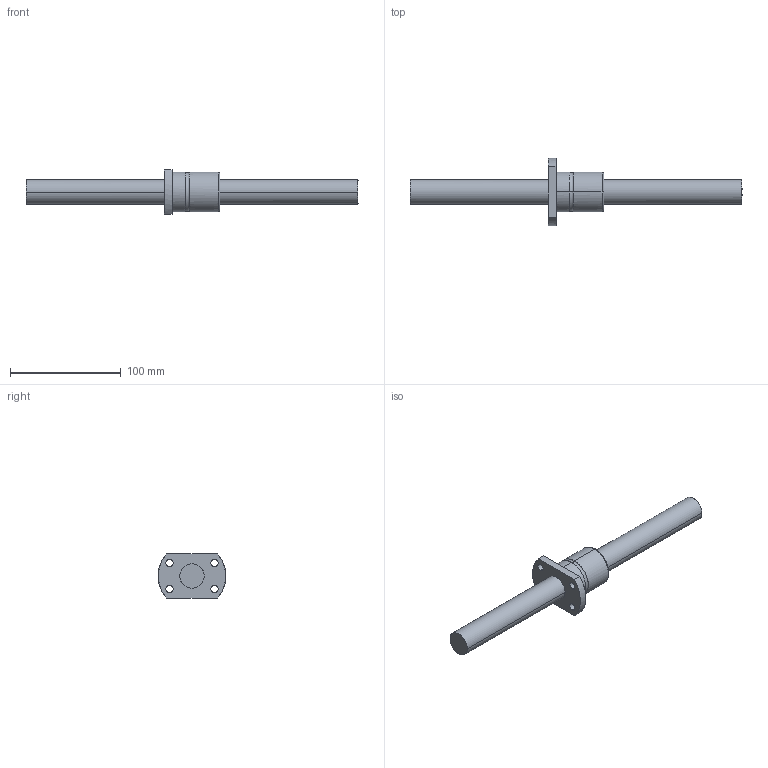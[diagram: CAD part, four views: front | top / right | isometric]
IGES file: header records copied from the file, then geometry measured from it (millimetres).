
Global section: file name: No Iges File Name specified; native system: AutoDesk Inventor R10; preprocessor: AutoDesk Inventor Iges Exporter R10; author: No Author specified; organization: No Organization specified; date: 20101224.154138; units: millimetre
Bounding box: 300 x 60.89 x 40 mm (x, y, z)
Surface area: 35097.5 mm2 (no closed solid volume)
Topology: 0 solids, 0 shells, 33 faces, 238 edges, 238 vertices
Faces by surface type: bspline 33
